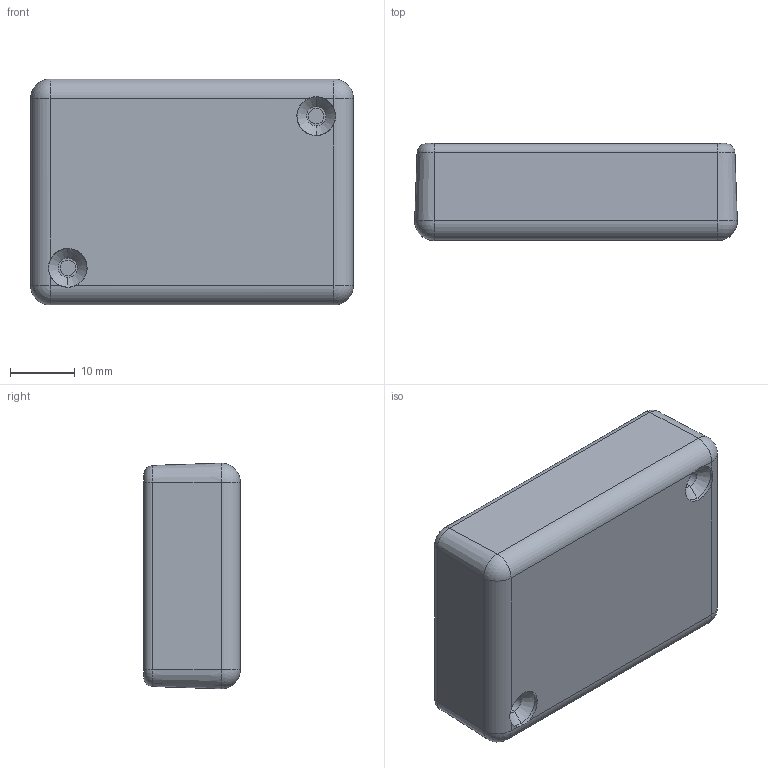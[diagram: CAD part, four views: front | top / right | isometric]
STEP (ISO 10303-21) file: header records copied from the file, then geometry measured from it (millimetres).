
FILE_DESCRIPTION (( 'STEP AP203' ), '1' );
FILE_NAME ('HH-003.STEP', '2016-06-21T05:19:10', ( '' ), ( '' ), 'SwSTEP 2.0', 'SolidWorks 2015', '' );
FILE_SCHEMA (( 'CONFIG_CONTROL_DESIGN' ));
Length unit declared in the file: millimetre
Products named in the file (3): HH-003-P-1-11141; DM-003-P-2-11137; HH-003
Assembly tree (2 placements, depth 2):
  HH-003
    HH-003-P-1-11141
    DM-003-P-2-11137
Bounding box: 50 x 15 x 35 mm (x, y, z)
Volume: 9542 mm3; surface area: 12299.6 mm2
Topology: 2 solids, 2 shells, 126 faces, 311 edges, 198 vertices
Faces by surface type: plane 57, cone 36, cylinder 25, sphere 4, torus 4
Entity records: 4054 total; most frequent: DIRECTION 687, CARTESIAN_POINT 674, ORIENTED_EDGE 614, EDGE_CURVE 307, AXIS2_PLACEMENT_3D 255, VERTEX_POINT 198, LINE 177, VECTOR 177
